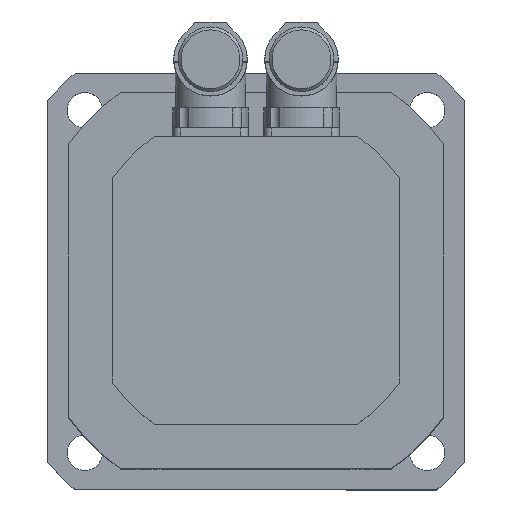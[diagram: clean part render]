
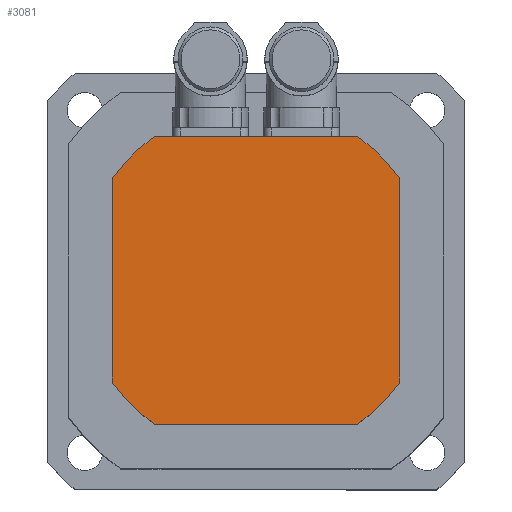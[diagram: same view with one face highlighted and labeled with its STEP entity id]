
A CAD part, top view. The second image highlights one B-rep face of the part: STEP entity #3081.
In plain terms, the highlighted planar face has unit normal (0, 0, 1).
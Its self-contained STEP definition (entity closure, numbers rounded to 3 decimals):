
#703=CIRCLE('',#3287,60.);
#704=CIRCLE('',#3289,60.);
#705=CIRCLE('',#3291,60.);
#706=CIRCLE('',#3293,60.);
#933=VERTEX_POINT('',#4756);
#934=VERTEX_POINT('',#4758);
#935=VERTEX_POINT('',#4762);
#936=VERTEX_POINT('',#4764);
#941=VERTEX_POINT('',#4780);
#942=VERTEX_POINT('',#4782);
#943=VERTEX_POINT('',#4786);
#944=VERTEX_POINT('',#4788);
#1195=VECTOR('',#3813,1.);
#1198=VECTOR('',#3817,1.);
#1201=VECTOR('',#3835,1.);
#1204=VECTOR('',#3839,1.);
#1406=LINE('',#4757,#1195);
#1409=LINE('',#4763,#1198);
#1412=LINE('',#4781,#1201);
#1415=LINE('',#4787,#1204);
#1679=EDGE_CURVE('',#934,#933,#1406,.T.);
#1682=EDGE_CURVE('',#936,#935,#1409,.T.);
#1689=EDGE_CURVE('',#942,#941,#1412,.T.);
#1692=EDGE_CURVE('',#944,#943,#1415,.T.);
#1694=EDGE_CURVE('',#936,#943,#703,.T.);
#1695=EDGE_CURVE('',#942,#935,#704,.T.);
#1696=EDGE_CURVE('',#934,#941,#705,.T.);
#1697=EDGE_CURVE('',#944,#933,#706,.T.);
#2299=ORIENTED_EDGE('',*,*,#1679,.T.);
#2300=ORIENTED_EDGE('',*,*,#1697,.F.);
#2301=ORIENTED_EDGE('',*,*,#1692,.T.);
#2302=ORIENTED_EDGE('',*,*,#1694,.F.);
#2303=ORIENTED_EDGE('',*,*,#1682,.T.);
#2304=ORIENTED_EDGE('',*,*,#1695,.F.);
#2305=ORIENTED_EDGE('',*,*,#1689,.T.);
#2306=ORIENTED_EDGE('',*,*,#1696,.F.);
#2696=EDGE_LOOP('',(#2299,#2300,#2301,#2302,#2303,#2304,#2305,#2306));
#2902=FACE_BOUND('',#2696,.T.);
#3081=ADVANCED_FACE('',(#2902),#5582,.F.);
#3287=AXIS2_PLACEMENT_3D('',#4791,#3843,#3844);
#3289=AXIS2_PLACEMENT_3D('',#4793,#3847,#3848);
#3291=AXIS2_PLACEMENT_3D('',#4795,#3851,#3852);
#3293=AXIS2_PLACEMENT_3D('',#4797,#3855,#3856);
#3294=AXIS2_PLACEMENT_3D('',#4798,#3857,$);
#3813=DIRECTION('',(0.,-1.,0.));
#3817=DIRECTION('',(0.,1.,0.));
#3835=DIRECTION('',(-1.,0.,0.));
#3839=DIRECTION('',(1.,0.,0.));
#3843=DIRECTION('',(0.,0.,-1.));
#3844=DIRECTION('',(-60.,0.,0.));
#3847=DIRECTION('',(0.,0.,-1.));
#3848=DIRECTION('',(-60.,0.,0.));
#3851=DIRECTION('',(0.,0.,-1.));
#3852=DIRECTION('',(-60.,0.,0.));
#3855=DIRECTION('',(0.,0.,-1.));
#3856=DIRECTION('',(-60.,0.,0.));
#3857=DIRECTION('',(0.,0.,-1.));
#4756=CARTESIAN_POINT('',(-49.,-34.627,45.));
#4757=CARTESIAN_POINT('',(-49.,34.627,45.));
#4758=CARTESIAN_POINT('',(-49.,34.627,45.));
#4762=CARTESIAN_POINT('',(49.,34.627,45.));
#4763=CARTESIAN_POINT('',(49.,-34.627,45.));
#4764=CARTESIAN_POINT('',(49.,-34.627,45.));
#4780=CARTESIAN_POINT('',(-34.627,49.,45.));
#4781=CARTESIAN_POINT('',(34.627,49.,45.));
#4782=CARTESIAN_POINT('',(34.627,49.,45.));
#4786=CARTESIAN_POINT('',(34.627,-49.,45.));
#4787=CARTESIAN_POINT('',(-34.627,-49.,45.));
#4788=CARTESIAN_POINT('',(-34.627,-49.,45.));
#4791=CARTESIAN_POINT('',(0.,0.,45.));
#4793=CARTESIAN_POINT('',(0.,0.,45.));
#4795=CARTESIAN_POINT('',(0.,0.,45.));
#4797=CARTESIAN_POINT('',(0.,0.,45.));
#4798=CARTESIAN_POINT('',(0.,0.,45.));
#5582=PLANE('',#3294);
